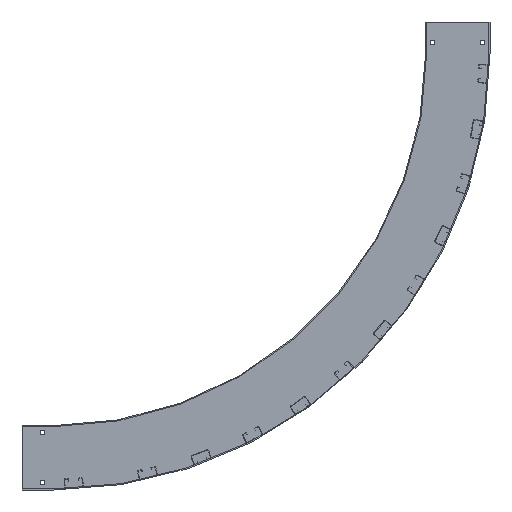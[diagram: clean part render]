
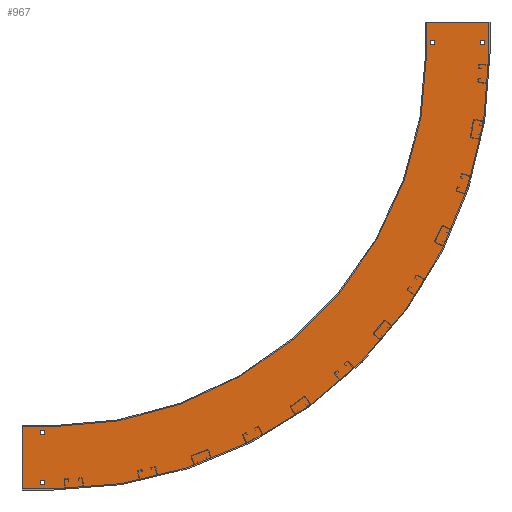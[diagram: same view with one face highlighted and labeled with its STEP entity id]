
A CAD part, left-side view. The second image highlights one B-rep face of the part: STEP entity #967.
In plain terms, the highlighted planar face has unit normal (-1, 0, 0) as drawn and (1, 0, 0) by its records, which use the part's own axes.
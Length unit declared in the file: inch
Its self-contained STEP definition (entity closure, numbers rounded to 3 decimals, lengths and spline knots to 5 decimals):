
#9=DIRECTION('',(0.,1.,0.));
#10=VECTOR('',#9,6.02);
#11=CARTESIAN_POINT('',(0.1,0.1,0.));
#12=LINE('',#11,#10);
#194=DIRECTION('',(0.,0.,1.));
#195=VECTOR('',#194,3.);
#196=CARTESIAN_POINT('',(0.1,6.12,0.));
#197=LINE('',#196,#195);
#198=DIRECTION('',(0.,0.,1.));
#199=VECTOR('',#198,3.);
#200=CARTESIAN_POINT('',(0.1,0.1,0.));
#201=LINE('',#200,#199);
#202=CARTESIAN_POINT('',(0.1,-36.,3.));
#203=DIRECTION('',(1.,0.,0.));
#204=DIRECTION('',(0.,1.,0.));
#205=AXIS2_PLACEMENT_3D('',#202,#203,#204);
#207=DIRECTION('',(0.,-1.,0.));
#208=VECTOR('',#207,3.);
#209=CARTESIAN_POINT('',(0.1,-36.,39.1));
#210=LINE('',#209,#208);
#211=DIRECTION('',(0.,1.,0.));
#212=VECTOR('',#211,0.41);
#213=CARTESIAN_POINT('',(0.1,0.477,1.755));
#214=LINE('',#213,#212);
#215=DIRECTION('',(0.,0.,1.));
#216=VECTOR('',#215,0.41);
#217=CARTESIAN_POINT('',(0.1,0.887,1.755));
#218=LINE('',#217,#216);
#219=DIRECTION('',(0.,-1.,0.));
#220=VECTOR('',#219,0.41);
#221=CARTESIAN_POINT('',(0.1,0.887,2.165));
#222=LINE('',#221,#220);
#223=DIRECTION('',(0.,0.,-1.));
#224=VECTOR('',#223,0.41);
#225=CARTESIAN_POINT('',(0.1,0.477,2.165));
#226=LINE('',#225,#224);
#227=DIRECTION('',(0.,1.,0.));
#228=VECTOR('',#227,0.41);
#229=CARTESIAN_POINT('',(0.1,5.312,1.755));
#230=LINE('',#229,#228);
#231=DIRECTION('',(0.,0.,1.));
#232=VECTOR('',#231,0.41);
#233=CARTESIAN_POINT('',(0.1,5.722,1.755));
#234=LINE('',#233,#232);
#235=DIRECTION('',(0.,-1.,0.));
#236=VECTOR('',#235,0.41);
#237=CARTESIAN_POINT('',(0.1,5.722,2.165));
#238=LINE('',#237,#236);
#239=DIRECTION('',(0.,0.,-1.));
#240=VECTOR('',#239,0.41);
#241=CARTESIAN_POINT('',(0.1,5.312,2.165));
#242=LINE('',#241,#240);
#243=DIRECTION('',(0.,1.,0.));
#244=VECTOR('',#243,0.41);
#245=CARTESIAN_POINT('',(0.1,-37.245,39.477));
#246=LINE('',#245,#244);
#247=DIRECTION('',(0.,0.,1.));
#248=VECTOR('',#247,0.41);
#249=CARTESIAN_POINT('',(0.1,-36.835,39.477));
#250=LINE('',#249,#248);
#251=DIRECTION('',(0.,-1.,0.));
#252=VECTOR('',#251,0.41);
#253=CARTESIAN_POINT('',(0.1,-36.835,39.887));
#254=LINE('',#253,#252);
#255=DIRECTION('',(0.,0.,-1.));
#256=VECTOR('',#255,0.41);
#257=CARTESIAN_POINT('',(0.1,-37.245,39.887));
#258=LINE('',#257,#256);
#259=DIRECTION('',(0.,1.,0.));
#260=VECTOR('',#259,0.41);
#261=CARTESIAN_POINT('',(0.1,-37.245,44.312));
#262=LINE('',#261,#260);
#263=DIRECTION('',(0.,0.,1.));
#264=VECTOR('',#263,0.41);
#265=CARTESIAN_POINT('',(0.1,-36.835,44.312));
#266=LINE('',#265,#264);
#267=DIRECTION('',(0.,-1.,0.));
#268=VECTOR('',#267,0.41);
#269=CARTESIAN_POINT('',(0.1,-36.835,44.722));
#270=LINE('',#269,#268);
#271=DIRECTION('',(0.,0.,-1.));
#272=VECTOR('',#271,0.41);
#273=CARTESIAN_POINT('',(0.1,-37.245,44.722));
#274=LINE('',#273,#272);
#336=DIRECTION('',(0.,0.,1.));
#337=VECTOR('',#336,6.02);
#338=CARTESIAN_POINT('',(0.1,-39.,39.1));
#339=LINE('',#338,#337);
#416=DIRECTION('',(0.,-1.,0.));
#417=VECTOR('',#416,3.);
#418=CARTESIAN_POINT('',(0.1,-36.,45.12));
#419=LINE('',#418,#417);
#424=CARTESIAN_POINT('',(0.1,-36.,3.));
#425=DIRECTION('',(1.,0.,0.));
#426=DIRECTION('',(0.,1.,0.));
#427=AXIS2_PLACEMENT_3D('',#424,#425,#426);
#497=CARTESIAN_POINT('',(0.1,0.1,0.));
#498=VERTEX_POINT('',#497);
#499=CARTESIAN_POINT('',(0.1,6.12,0.));
#500=VERTEX_POINT('',#499);
#518=CARTESIAN_POINT('',(0.1,0.1,3.));
#520=VERTEX_POINT('',#518);
#521=CARTESIAN_POINT('',(0.1,6.12,3.));
#523=VERTEX_POINT('',#521);
#542=CARTESIAN_POINT('',(0.1,-36.,39.1));
#544=VERTEX_POINT('',#542);
#545=CARTESIAN_POINT('',(0.1,-36.,45.12));
#547=VERTEX_POINT('',#545);
#569=CARTESIAN_POINT('',(0.1,-39.,39.1));
#570=VERTEX_POINT('',#569);
#571=CARTESIAN_POINT('',(0.1,-39.,45.12));
#572=VERTEX_POINT('',#571);
#589=CARTESIAN_POINT('',(0.1,0.477,1.755));
#590=CARTESIAN_POINT('',(0.1,0.887,1.755));
#591=VERTEX_POINT('',#589);
#592=VERTEX_POINT('',#590);
#593=CARTESIAN_POINT('',(0.1,0.887,2.165));
#594=VERTEX_POINT('',#593);
#595=CARTESIAN_POINT('',(0.1,0.477,2.165));
#596=VERTEX_POINT('',#595);
#597=CARTESIAN_POINT('',(0.1,5.312,1.755));
#598=CARTESIAN_POINT('',(0.1,5.722,1.755));
#599=VERTEX_POINT('',#597);
#600=VERTEX_POINT('',#598);
#601=CARTESIAN_POINT('',(0.1,5.722,2.165));
#602=VERTEX_POINT('',#601);
#603=CARTESIAN_POINT('',(0.1,5.312,2.165));
#604=VERTEX_POINT('',#603);
#621=CARTESIAN_POINT('',(0.1,-37.245,39.477));
#622=CARTESIAN_POINT('',(0.1,-36.835,39.477));
#623=VERTEX_POINT('',#621);
#624=VERTEX_POINT('',#622);
#625=CARTESIAN_POINT('',(0.1,-36.835,39.887));
#626=VERTEX_POINT('',#625);
#627=CARTESIAN_POINT('',(0.1,-37.245,39.887));
#628=VERTEX_POINT('',#627);
#629=CARTESIAN_POINT('',(0.1,-37.245,44.312));
#630=CARTESIAN_POINT('',(0.1,-36.835,44.312));
#631=VERTEX_POINT('',#629);
#632=VERTEX_POINT('',#630);
#633=CARTESIAN_POINT('',(0.1,-36.835,44.722));
#634=VERTEX_POINT('',#633);
#635=CARTESIAN_POINT('',(0.1,-37.245,44.722));
#636=VERTEX_POINT('',#635);
#906=CARTESIAN_POINT('',(0.1,0.1,0.));
#907=DIRECTION('',(1.,0.,0.));
#908=DIRECTION('',(0.,1.,0.));
#909=AXIS2_PLACEMENT_3D('',#906,#907,#908);
#910=PLANE('',#909);
#911=ORIENTED_EDGE('',*,*,#662,.F.);
#913=ORIENTED_EDGE('',*,*,#912,.T.);
#915=ORIENTED_EDGE('',*,*,#914,.T.);
#917=ORIENTED_EDGE('',*,*,#916,.T.);
#919=ORIENTED_EDGE('',*,*,#918,.T.);
#921=ORIENTED_EDGE('',*,*,#920,.F.);
#923=ORIENTED_EDGE('',*,*,#922,.F.);
#924=ORIENTED_EDGE('',*,*,#898,.F.);
#925=EDGE_LOOP('',(#911,#913,#915,#917,#919,#921,#923,#924));
#926=FACE_OUTER_BOUND('',#925,.F.);
#928=ORIENTED_EDGE('',*,*,#927,.T.);
#930=ORIENTED_EDGE('',*,*,#929,.T.);
#932=ORIENTED_EDGE('',*,*,#931,.T.);
#934=ORIENTED_EDGE('',*,*,#933,.T.);
#935=EDGE_LOOP('',(#928,#930,#932,#934));
#936=FACE_BOUND('',#935,.F.);
#938=ORIENTED_EDGE('',*,*,#937,.T.);
#940=ORIENTED_EDGE('',*,*,#939,.T.);
#942=ORIENTED_EDGE('',*,*,#941,.T.);
#944=ORIENTED_EDGE('',*,*,#943,.T.);
#945=EDGE_LOOP('',(#938,#940,#942,#944));
#946=FACE_BOUND('',#945,.F.);
#948=ORIENTED_EDGE('',*,*,#947,.T.);
#950=ORIENTED_EDGE('',*,*,#949,.T.);
#952=ORIENTED_EDGE('',*,*,#951,.T.);
#954=ORIENTED_EDGE('',*,*,#953,.T.);
#955=EDGE_LOOP('',(#948,#950,#952,#954));
#956=FACE_BOUND('',#955,.F.);
#958=ORIENTED_EDGE('',*,*,#957,.T.);
#960=ORIENTED_EDGE('',*,*,#959,.T.);
#962=ORIENTED_EDGE('',*,*,#961,.T.);
#964=ORIENTED_EDGE('',*,*,#963,.T.);
#965=EDGE_LOOP('',(#958,#960,#962,#964));
#966=FACE_BOUND('',#965,.F.);
#967=ADVANCED_FACE('',(#926,#936,#946,#956,#966),#910,.T.);
#206=CIRCLE('',#205,36.1);
#428=CIRCLE('',#427,42.12);
#662=EDGE_CURVE('',#498,#500,#12,.T.);
#898=EDGE_CURVE('',#500,#523,#197,.T.);
#912=EDGE_CURVE('',#498,#520,#201,.T.);
#914=EDGE_CURVE('',#520,#544,#206,.T.);
#916=EDGE_CURVE('',#544,#570,#210,.T.);
#918=EDGE_CURVE('',#570,#572,#339,.T.);
#920=EDGE_CURVE('',#547,#572,#419,.T.);
#922=EDGE_CURVE('',#523,#547,#428,.T.);
#927=EDGE_CURVE('',#591,#592,#214,.T.);
#929=EDGE_CURVE('',#592,#594,#218,.T.);
#931=EDGE_CURVE('',#594,#596,#222,.T.);
#933=EDGE_CURVE('',#596,#591,#226,.T.);
#937=EDGE_CURVE('',#599,#600,#230,.T.);
#939=EDGE_CURVE('',#600,#602,#234,.T.);
#941=EDGE_CURVE('',#602,#604,#238,.T.);
#943=EDGE_CURVE('',#604,#599,#242,.T.);
#947=EDGE_CURVE('',#623,#624,#246,.T.);
#949=EDGE_CURVE('',#624,#626,#250,.T.);
#951=EDGE_CURVE('',#626,#628,#254,.T.);
#953=EDGE_CURVE('',#628,#623,#258,.T.);
#957=EDGE_CURVE('',#631,#632,#262,.T.);
#959=EDGE_CURVE('',#632,#634,#266,.T.);
#961=EDGE_CURVE('',#634,#636,#270,.T.);
#963=EDGE_CURVE('',#636,#631,#274,.T.);
